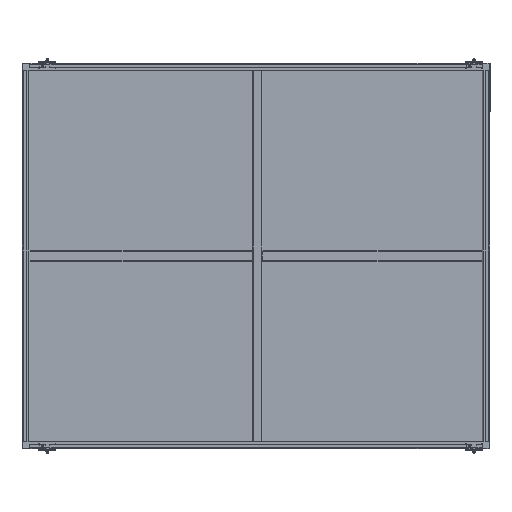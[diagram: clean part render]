
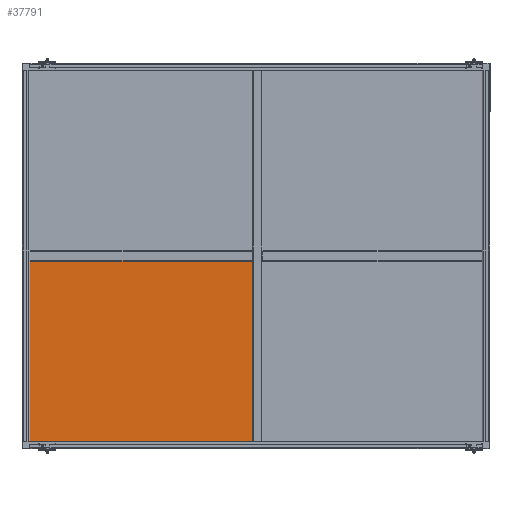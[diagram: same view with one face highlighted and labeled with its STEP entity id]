
A CAD part, top view. The second image highlights one B-rep face of the part: STEP entity #37791.
In plain terms, the highlighted planar face has unit normal (0, 0, 1).
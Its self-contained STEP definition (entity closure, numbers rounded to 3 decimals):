
#4985=FACE_OUTER_BOUND('',#7371,.T.);
#7371=EDGE_LOOP('',(#34415,#34416,#34417,#34418));
#11023=LINE('',#254817,#14691);
#11027=LINE('',#254825,#14695);
#11030=LINE('',#254831,#14698);
#11033=LINE('',#254836,#14701);
#14691=VECTOR('',#51786,10.);
#14695=VECTOR('',#51792,10.);
#14698=VECTOR('',#51797,10.);
#14701=VECTOR('',#51802,10.);
#18189=VERTEX_POINT('',#254815);
#18190=VERTEX_POINT('',#254816);
#18193=VERTEX_POINT('',#254824);
#18195=VERTEX_POINT('',#254830);
#23595=EDGE_CURVE('',#18189,#18190,#11023,.T.);
#23599=EDGE_CURVE('',#18190,#18193,#11027,.T.);
#23602=EDGE_CURVE('',#18193,#18195,#11030,.T.);
#23605=EDGE_CURVE('',#18195,#18189,#11033,.T.);
#34415=ORIENTED_EDGE('',*,*,#23595,.F.);
#34416=ORIENTED_EDGE('',*,*,#23605,.F.);
#34417=ORIENTED_EDGE('',*,*,#23602,.F.);
#34418=ORIENTED_EDGE('',*,*,#23599,.F.);
#35698=PLANE('',#41264);
#37791=ADVANCED_FACE('',(#4985),#35698,.T.);
#41264=AXIS2_PLACEMENT_3D('',#254838,#51804,#51805);
#51786=DIRECTION('',(0.,1.,0.));
#51792=DIRECTION('',(1.,0.,0.));
#51797=DIRECTION('',(0.,-1.,0.));
#51802=DIRECTION('',(-1.,0.,0.));
#51804=DIRECTION('center_axis',(0.,0.,
1.));
#51805=DIRECTION('ref_axis',(1.,0.,0.));
#254815=CARTESIAN_POINT('',(-975.964,-421.685,17.279));
#254816=CARTESIAN_POINT('',(-975.964,293.315,17.279));
#254817=CARTESIAN_POINT('',(-975.964,-421.685,17.279));
#254824=CARTESIAN_POINT('',(-94.964,293.315,17.279));
#254825=CARTESIAN_POINT('',(-975.964,293.315,17.279));
#254830=CARTESIAN_POINT('',(-94.964,-421.685,17.279));
#254831=CARTESIAN_POINT('',(-94.964,293.315,17.279));
#254836=CARTESIAN_POINT('',(-94.964,-421.685,17.279));
#254838=CARTESIAN_POINT('Origin',(-535.464,-64.185,17.279));
